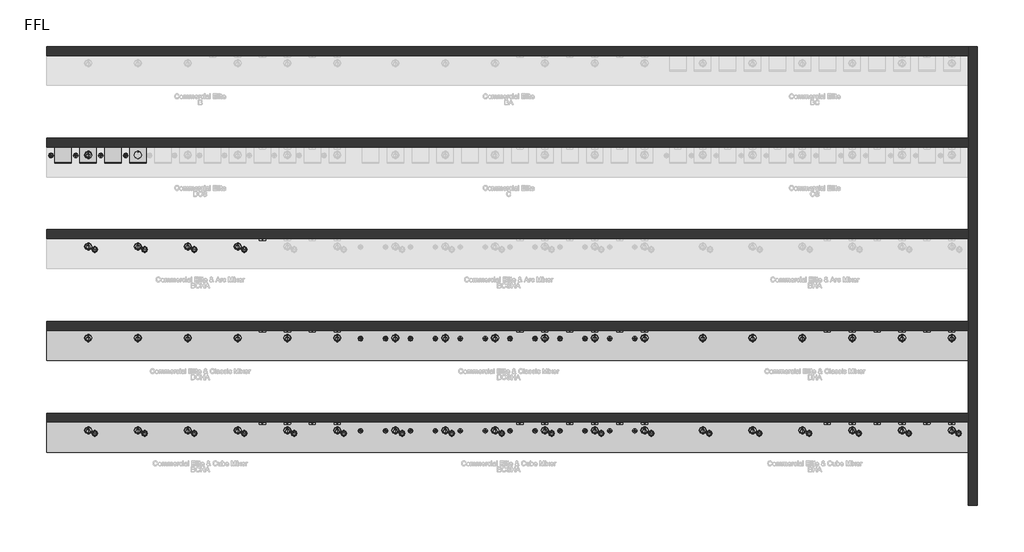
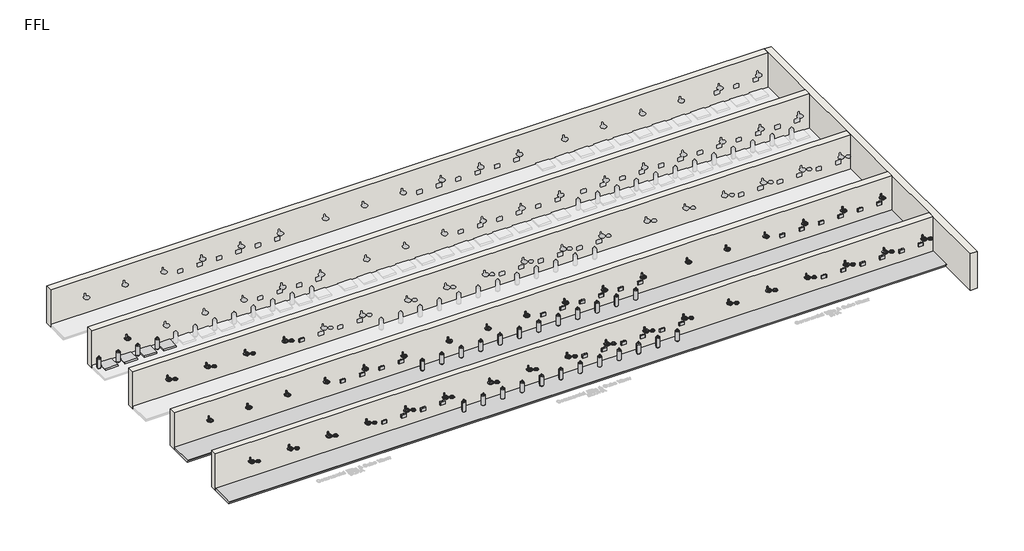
# One storey, part 1 of 13: 128 flow terminals, 6 walls, 2 furniture elements.
"""IFC4 building model written with IfcOpenShell, lengths in millimetres."""

from ifc_helpers import new_model, si_unit, origin, origin_with_axes, place, context, project, spatial, polyline, outline, extrude, faceted_brep, transform, mapped, element, save
from components import flow_terminal_100_people_matte_black_0dc622b1, bcs_and_bc_6de74493, bright_chrome_743c02cf, brushed_chrome_13082571, co2_gas_cylinder_20234e14, generic_plinth_900mm_f1ea148c

model = new_model("IFC4")

# Units and contexts
model_context = context("Model", 3, world=origin())
ifc_project = project(units=[si_unit("LENGTHUNIT", "METRE", prefix="MILLI")], contexts=[model_context])

# Site, building, storey
site = spatial("IfcSite", under=ifc_project)
building = spatial("IfcBuilding", under=site)
storey = spatial("IfcBuildingStorey", under=building, Name="FFL", Elevation=0.0)

# Flow terminals
placement = place(None, origin())
flow_terminal_100_people_matte_black_shape = flow_terminal_100_people_matte_black_0dc622b1(model_context)
element("IfcFlowTerminal", 1, ObjectType="PlumFixt_Zip Commercial_Elite_Classic Mixer_BCSHA : 100 People - Gold", at=placement, inside=storey, context=model_context, shape_type="MappedRepresentation", body=[
    mapped(flow_terminal_100_people_matte_black_shape, transform((7279.2647071, -697.2606696, 0.0), x_axis=(1.0, 0.0, 0.0), y_axis=(0.0, 1.0, 0.0), z_axis=(0.0, 0.0, 1.0))),
])
element("IfcFlowTerminal", 2, ObjectType="PlumFixt_Zip Commercial_Elite_Classic Mixer_BHA : 100 People - Gold", at=placement, inside=storey, context=model_context, shape_type="MappedRepresentation", body=[
    mapped(flow_terminal_100_people_matte_black_shape, transform((16529.2647071, -697.2606696, 0.0), x_axis=(1.0, 0.0, 0.0), y_axis=(0.0, 1.0, 0.0), z_axis=(0.0, 0.0, 1.0))),
])
element("IfcFlowTerminal", 3, ObjectType="PlumFixt_Zip Commercial_Elite_Cube Mixer_BCSHA : 100 People - Gold", at=placement, inside=storey, context=model_context, shape_type="MappedRepresentation", body=[
    mapped(flow_terminal_100_people_matte_black_shape, transform((7279.2647071, -3477.2606696, 0.0), x_axis=(1.0, 0.0, 0.0), y_axis=(0.0, 1.0, 0.0), z_axis=(0.0, 0.0, 1.0))),
])
element("IfcFlowTerminal", 4, ObjectType="PlumFixt_Zip Commercial_Elite_Cube Mixer_BHA : 100 People - Gold", at=placement, inside=storey, context=model_context, shape_type="MappedRepresentation", body=[
    mapped(flow_terminal_100_people_matte_black_shape, transform((16529.2647071, -3477.2606696, 0.0), x_axis=(1.0, 0.0, 0.0), y_axis=(0.0, 1.0, 0.0), z_axis=(0.0, 0.0, 1.0))),
])
element("IfcFlowTerminal", 5, ObjectType="PlumFixt_Zip Commercial_Elite_Classic Mixer_BCSHA : 100 People - Gunmetal", at=placement, inside=storey, context=model_context, shape_type="MappedRepresentation", body=[
    mapped(flow_terminal_100_people_matte_black_shape, transform((8029.2647071, -697.2606696, 0.0), x_axis=(1.0, 0.0, 0.0), y_axis=(0.0, 1.0, 0.0), z_axis=(0.0, 0.0, 1.0))),
])
element("IfcFlowTerminal", 6, ObjectType="PlumFixt_Zip Commercial_Elite_Classic Mixer_BHA : 100 People - Gunmetal", at=placement, inside=storey, context=model_context, shape_type="MappedRepresentation", body=[
    mapped(flow_terminal_100_people_matte_black_shape, transform((17279.2647071, -697.2606696, 0.0), x_axis=(1.0, 0.0, 0.0), y_axis=(0.0, 1.0, 0.0), z_axis=(0.0, 0.0, 1.0))),
])
element("IfcFlowTerminal", 7, ObjectType="PlumFixt_Zip Commercial_Elite_Cube Mixer_BCSHA : 100 People - Gunmetal", at=placement, inside=storey, context=model_context, shape_type="MappedRepresentation", body=[
    mapped(flow_terminal_100_people_matte_black_shape, transform((8029.2647071, -3477.2606696, 0.0), x_axis=(1.0, 0.0, 0.0), y_axis=(0.0, 1.0, 0.0), z_axis=(0.0, 0.0, 1.0))),
])
element("IfcFlowTerminal", 8, ObjectType="PlumFixt_Zip Commercial_Elite_Cube Mixer_BHA : 100 People - Gunmetal", at=placement, inside=storey, context=model_context, shape_type="MappedRepresentation", body=[
    mapped(flow_terminal_100_people_matte_black_shape, transform((17279.2647071, -3477.2606696, 0.0), x_axis=(1.0, 0.0, 0.0), y_axis=(0.0, 1.0, 0.0), z_axis=(0.0, 0.0, 1.0))),
])
element("IfcFlowTerminal", 9, ObjectType="PlumFixt_Zip Commercial_Elite_Arc Mixer_BCHA : 100 People - Matte Black", at=placement, inside=storey, context=model_context, shape_type="MappedRepresentation", body=[
    mapped(flow_terminal_100_people_matte_black_shape, transform((-470.7352929, 2062.7393304, 0.0), x_axis=(1.0, 0.0, 0.0), y_axis=(0.0, 1.0, 0.0), z_axis=(0.0, 0.0, 1.0))),
])
element("IfcFlowTerminal", 10, ObjectType="PlumFixt_Zip Commercial_Elite_Classic Mixer_BCHA : 100 People - Matte Black", at=placement, inside=storey, context=model_context, shape_type="MappedRepresentation", body=[
    mapped(flow_terminal_100_people_matte_black_shape, transform((-470.7352929, -697.2606696, 0.0), x_axis=(1.0, 0.0, 0.0), y_axis=(0.0, 1.0, 0.0), z_axis=(0.0, 0.0, 1.0))),
])
element("IfcFlowTerminal", 11, ObjectType="PlumFixt_Zip Commercial_Elite_Classic Mixer_BCSHA : 100 People - Matte Black", at=placement, inside=storey, context=model_context, shape_type="MappedRepresentation", body=[
    mapped(flow_terminal_100_people_matte_black_shape, transform((8779.2647071, -697.2606696, 0.0), x_axis=(1.0, 0.0, 0.0), y_axis=(0.0, 1.0, 0.0), z_axis=(0.0, 0.0, 1.0))),
])
element("IfcFlowTerminal", 12, ObjectType="PlumFixt_Zip Commercial_Elite_Classic Mixer_BHA : 100 People - Matte Black", at=placement, inside=storey, context=model_context, shape_type="MappedRepresentation", body=[
    mapped(flow_terminal_100_people_matte_black_shape, transform((18029.2647071, -697.2606696, 0.0), x_axis=(1.0, 0.0, 0.0), y_axis=(0.0, 1.0, 0.0), z_axis=(0.0, 0.0, 1.0))),
])
element("IfcFlowTerminal", 13, ObjectType="PlumFixt_Zip Commercial_Elite_Cube Mixer_BCHA : 100 People - Matte Black", at=placement, inside=storey, context=model_context, shape_type="MappedRepresentation", body=[
    mapped(flow_terminal_100_people_matte_black_shape, transform((-470.7352929, -3477.2606696, 0.0), x_axis=(1.0, 0.0, 0.0), y_axis=(0.0, 1.0, 0.0), z_axis=(0.0, 0.0, 1.0))),
])
element("IfcFlowTerminal", 14, ObjectType="PlumFixt_Zip Commercial_Elite_Cube Mixer_BCSHA : 100 People - Matte Black", at=placement, inside=storey, context=model_context, shape_type="MappedRepresentation", body=[
    mapped(flow_terminal_100_people_matte_black_shape, transform((8779.2647071, -3477.2606696, 0.0), x_axis=(1.0, 0.0, 0.0), y_axis=(0.0, 1.0, 0.0), z_axis=(0.0, 0.0, 1.0))),
])
element("IfcFlowTerminal", 15, ObjectType="PlumFixt_Zip Commercial_Elite_Cube Mixer_BHA : 100 People - Matte Black", at=placement, inside=storey, context=model_context, shape_type="MappedRepresentation", body=[
    mapped(flow_terminal_100_people_matte_black_shape, transform((18029.2647071, -3477.2606696, 0.0), x_axis=(1.0, 0.0, 0.0), y_axis=(0.0, 1.0, 0.0), z_axis=(0.0, 0.0, 1.0))),
])
element("IfcFlowTerminal", 16, ObjectType="PlumFixt_Zip Commercial_Elite_Classic Mixer_BCHA : 100 People - Nickel", at=placement, inside=storey, context=model_context, shape_type="MappedRepresentation", body=[
    mapped(flow_terminal_100_people_matte_black_shape, transform((279.2647071, -697.2606696, 0.0), x_axis=(1.0, 0.0, 0.0), y_axis=(0.0, 1.0, 0.0), z_axis=(0.0, 0.0, 1.0))),
])
element("IfcFlowTerminal", 17, ObjectType="PlumFixt_Zip Commercial_Elite_Classic Mixer_BCSHA : 100 People - Nickel", at=placement, inside=storey, context=model_context, shape_type="MappedRepresentation", body=[
    mapped(flow_terminal_100_people_matte_black_shape, transform((9529.2647071, -697.2606696, 0.0), x_axis=(1.0, 0.0, 0.0), y_axis=(0.0, 1.0, 0.0), z_axis=(0.0, 0.0, 1.0))),
])
element("IfcFlowTerminal", 18, ObjectType="PlumFixt_Zip Commercial_Elite_Classic Mixer_BHA : 100 People - Nickel", at=placement, inside=storey, context=model_context, shape_type="MappedRepresentation", body=[
    mapped(flow_terminal_100_people_matte_black_shape, transform((18779.2647071, -697.2606696, 0.0), x_axis=(1.0, 0.0, 0.0), y_axis=(0.0, 1.0, 0.0), z_axis=(0.0, 0.0, 1.0))),
])
element("IfcFlowTerminal", 19, ObjectType="PlumFixt_Zip Commercial_Elite_Cube Mixer_BCHA : 100 People - Nickel", at=placement, inside=storey, context=model_context, shape_type="MappedRepresentation", body=[
    mapped(flow_terminal_100_people_matte_black_shape, transform((279.2647071, -3477.2606696, 0.0), x_axis=(1.0, 0.0, 0.0), y_axis=(0.0, 1.0, 0.0), z_axis=(0.0, 0.0, 1.0))),
])
element("IfcFlowTerminal", 20, ObjectType="PlumFixt_Zip Commercial_Elite_Cube Mixer_BCSHA : 100 People - Nickel", at=placement, inside=storey, context=model_context, shape_type="MappedRepresentation", body=[
    mapped(flow_terminal_100_people_matte_black_shape, transform((9529.2647071, -3477.2606696, 0.0), x_axis=(1.0, 0.0, 0.0), y_axis=(0.0, 1.0, 0.0), z_axis=(0.0, 0.0, 1.0))),
])
element("IfcFlowTerminal", 21, ObjectType="PlumFixt_Zip Commercial_Elite_Cube Mixer_BHA : 100 People - Nickel", at=placement, inside=storey, context=model_context, shape_type="MappedRepresentation", body=[
    mapped(flow_terminal_100_people_matte_black_shape, transform((18779.2647071, -3477.2606696, 0.0), x_axis=(1.0, 0.0, 0.0), y_axis=(0.0, 1.0, 0.0), z_axis=(0.0, 0.0, 1.0))),
])
element("IfcFlowTerminal", 22, ObjectType="PlumFixt_Zip Commercial_Elite_Classic Mixer_BCHA : 100 People - Platinum", at=placement, inside=storey, context=model_context, shape_type="MappedRepresentation", body=[
    mapped(flow_terminal_100_people_matte_black_shape, transform((1029.2647071, -697.2606696, 0.0), x_axis=(1.0, 0.0, 0.0), y_axis=(0.0, 1.0, 0.0), z_axis=(0.0, 0.0, 1.0))),
])
element("IfcFlowTerminal", 23, ObjectType="PlumFixt_Zip Commercial_Elite_Classic Mixer_BCSHA : 100 People - Platinum", at=placement, inside=storey, context=model_context, shape_type="MappedRepresentation", body=[
    mapped(flow_terminal_100_people_matte_black_shape, transform((10279.2647071, -697.2606696, 0.0), x_axis=(1.0, 0.0, 0.0), y_axis=(0.0, 1.0, 0.0), z_axis=(0.0, 0.0, 1.0))),
])
element("IfcFlowTerminal", 24, ObjectType="PlumFixt_Zip Commercial_Elite_Classic Mixer_BHA : 100 People - Platinum", at=placement, inside=storey, context=model_context, shape_type="MappedRepresentation", body=[
    mapped(flow_terminal_100_people_matte_black_shape, transform((19529.2647071, -697.2606696, 0.0), x_axis=(1.0, 0.0, 0.0), y_axis=(0.0, 1.0, 0.0), z_axis=(0.0, 0.0, 1.0))),
])
element("IfcFlowTerminal", 25, ObjectType="PlumFixt_Zip Commercial_Elite_Cube Mixer_BCHA : 100 People - Platinum", at=placement, inside=storey, context=model_context, shape_type="MappedRepresentation", body=[
    mapped(flow_terminal_100_people_matte_black_shape, transform((1029.2647071, -3477.2606696, 0.0), x_axis=(1.0, 0.0, 0.0), y_axis=(0.0, 1.0, 0.0), z_axis=(0.0, 0.0, 1.0))),
])
element("IfcFlowTerminal", 26, ObjectType="PlumFixt_Zip Commercial_Elite_Cube Mixer_BCSHA : 100 People - Platinum", at=placement, inside=storey, context=model_context, shape_type="MappedRepresentation", body=[
    mapped(flow_terminal_100_people_matte_black_shape, transform((10279.2647071, -3477.2606696, 0.0), x_axis=(1.0, 0.0, 0.0), y_axis=(0.0, 1.0, 0.0), z_axis=(0.0, 0.0, 1.0))),
])
element("IfcFlowTerminal", 27, ObjectType="PlumFixt_Zip Commercial_Elite_Cube Mixer_BHA : 100 People - Platinum", at=placement, inside=storey, context=model_context, shape_type="MappedRepresentation", body=[
    mapped(flow_terminal_100_people_matte_black_shape, transform((19529.2647071, -3477.2606696, 0.0), x_axis=(1.0, 0.0, 0.0), y_axis=(0.0, 1.0, 0.0), z_axis=(0.0, 0.0, 1.0))),
])
element("IfcFlowTerminal", 28, ObjectType="PlumFixt_Zip Commercial_Elite_Classic Mixer_BCHA : 100 People - Rose Gold", at=placement, inside=storey, context=model_context, shape_type="MappedRepresentation", body=[
    mapped(flow_terminal_100_people_matte_black_shape, transform((1779.2647071, -697.2606696, 0.0), x_axis=(1.0, 0.0, 0.0), y_axis=(0.0, 1.0, 0.0), z_axis=(0.0, 0.0, 1.0))),
])
element("IfcFlowTerminal", 29, ObjectType="PlumFixt_Zip Commercial_Elite_Classic Mixer_BCSHA : 100 People - Rose Gold", at=placement, inside=storey, context=model_context, shape_type="MappedRepresentation", body=[
    mapped(flow_terminal_100_people_matte_black_shape, transform((11029.2647071, -697.2606696, 0.0), x_axis=(1.0, 0.0, 0.0), y_axis=(0.0, 1.0, 0.0), z_axis=(0.0, 0.0, 1.0))),
])
element("IfcFlowTerminal", 30, ObjectType="PlumFixt_Zip Commercial_Elite_Classic Mixer_BHA : 100 People - Rose Gold", at=placement, inside=storey, context=model_context, shape_type="MappedRepresentation", body=[
    mapped(flow_terminal_100_people_matte_black_shape, transform((20279.2647071, -697.2606696, 0.0), x_axis=(1.0, 0.0, 0.0), y_axis=(0.0, 1.0, 0.0), z_axis=(0.0, 0.0, 1.0))),
])
element("IfcFlowTerminal", 31, ObjectType="PlumFixt_Zip Commercial_Elite_Cube Mixer_BCHA : 100 People - Rose Gold", at=placement, inside=storey, context=model_context, shape_type="MappedRepresentation", body=[
    mapped(flow_terminal_100_people_matte_black_shape, transform((1779.2647071, -3477.2606696, 0.0), x_axis=(1.0, 0.0, 0.0), y_axis=(0.0, 1.0, 0.0), z_axis=(0.0, 0.0, 1.0))),
])
element("IfcFlowTerminal", 32, ObjectType="PlumFixt_Zip Commercial_Elite_Cube Mixer_BCSHA : 100 People - Rose Gold", at=placement, inside=storey, context=model_context, shape_type="MappedRepresentation", body=[
    mapped(flow_terminal_100_people_matte_black_shape, transform((11029.2647071, -3477.2606696, 0.0), x_axis=(1.0, 0.0, 0.0), y_axis=(0.0, 1.0, 0.0), z_axis=(0.0, 0.0, 1.0))),
])
element("IfcFlowTerminal", 33, ObjectType="PlumFixt_Zip Commercial_Elite_Cube Mixer_BHA : 100 People - Rose Gold", at=placement, inside=storey, context=model_context, shape_type="MappedRepresentation", body=[
    mapped(flow_terminal_100_people_matte_black_shape, transform((20279.2647071, -3477.2606696, 0.0), x_axis=(1.0, 0.0, 0.0), y_axis=(0.0, 1.0, 0.0), z_axis=(0.0, 0.0, 1.0))),
])
bcs_and_bc_shape = bcs_and_bc_6de74493(model_context)
element("IfcFlowTerminal", 34, ObjectType="z_PlumFixt_Zip_Vent Tray : BCS and BC", at=placement, inside=storey, context=model_context, shape_type="MappedRepresentation", body=[
    mapped(bcs_and_bc_shape, transform((-6470.7352929, 4945.7393304, 100.0), x_axis=(1.0, 0.0, 0.0), y_axis=(0.0, 1.0, 0.0), z_axis=(0.0, 0.0, 1.0))),
])
element("IfcFlowTerminal", 35, ObjectType="z_PlumFixt_Zip_Vent Tray : BCS and BC", at=placement, inside=storey, context=model_context, shape_type="MappedRepresentation", body=[
    mapped(bcs_and_bc_shape, transform((-5720.7352929, 4945.7393304, 100.0), x_axis=(1.0, 0.0, 0.0), y_axis=(0.0, 1.0, 0.0), z_axis=(0.0, 0.0, 1.0))),
])
element("IfcFlowTerminal", 36, ObjectType="z_PlumFixt_Zip_Vent Tray : BCS and BC", at=placement, inside=storey, context=model_context, shape_type="MappedRepresentation", body=[
    mapped(bcs_and_bc_shape, transform((-4970.7352929, 4945.7393304, 100.0), x_axis=(1.0, 0.0, 0.0), y_axis=(0.0, 1.0, 0.0), z_axis=(0.0, 0.0, 1.0))),
])
element("IfcFlowTerminal", 37, ObjectType="z_PlumFixt_Zip_Vent Tray : BCS and BC", at=placement, inside=storey, context=model_context, shape_type="MappedRepresentation", body=[
    mapped(bcs_and_bc_shape, transform((-4220.7352929, 4945.7393304, 100.0), x_axis=(1.0, 0.0, 0.0), y_axis=(0.0, 1.0, 0.0), z_axis=(0.0, 0.0, 1.0))),
])
bright_chrome_shape = bright_chrome_743c02cf(model_context)
element("IfcFlowTerminal", 38, ObjectType="z_PlumFixt_Zip_Font : Bright Chrome", at=placement, inside=storey, context=model_context, shape_type="MappedRepresentation", body=[
    mapped(bright_chrome_shape, transform((-5520.7352929, 1991.2393304, 900.0), x_axis=(1.0000000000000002, 0.0, 0.0), y_axis=(0.0, 1.0000000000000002, 0.0), z_axis=(0.0, 0.0, 1.0))),
])
element("IfcFlowTerminal", 39, ObjectType="z_PlumFixt_Zip_Font : Bright Chrome", at=placement, inside=storey, context=model_context, shape_type="MappedRepresentation", body=[
    mapped(bright_chrome_shape, transform((-4020.7352929, 1991.2393304, 900.0), x_axis=(1.0000000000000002, 0.0, 0.0), y_axis=(0.0, 1.0000000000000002, 0.0), z_axis=(0.0, 0.0, 1.0))),
])
element("IfcFlowTerminal", 40, ObjectType="z_PlumFixt_Zip_Font : Bright Chrome", at=placement, inside=storey, context=model_context, shape_type="MappedRepresentation", body=[
    mapped(bright_chrome_shape, transform((-2520.7352929, 1991.2393304, 900.0), x_axis=(1.0000000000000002, 0.0, 0.0), y_axis=(0.0, 1.0000000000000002, 0.0), z_axis=(0.0, 0.0, 1.0))),
])
element("IfcFlowTerminal", 41, ObjectType="z_PlumFixt_Zip_Font : Bright Chrome", at=placement, inside=storey, context=model_context, shape_type="MappedRepresentation", body=[
    mapped(bright_chrome_shape, transform((-1020.7352929, 1991.2393304, 900.0), x_axis=(1.0000000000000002, 0.0, 0.0), y_axis=(0.0, 1.0000000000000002, 0.0), z_axis=(0.0, 0.0, 1.0))),
])
brushed_chrome_shape = brushed_chrome_13082571(model_context)
element("IfcFlowTerminal", 42, ObjectType="z_PlumFixt_Zip_Font and Tap Riser : Brushed Chrome", at=placement, inside=storey, context=model_context, shape_type="MappedRepresentation", body=[
    mapped(brushed_chrome_shape, transform((-5720.7352929, 4837.9893304, 900.0), x_axis=(1.0000000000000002, 0.0, 0.0), y_axis=(0.0, 1.0000000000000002, 0.0), z_axis=(0.0, 0.0, 1.0))),
])
element("IfcFlowTerminal", 43, ObjectType="z_PlumFixt_Zip_Font and Tap Riser : Brushed Chrome", at=placement, inside=storey, context=model_context, shape_type="MappedRepresentation", body=[
    mapped(brushed_chrome_shape, transform((-5720.7352929, 2077.9893304, 900.0), x_axis=(1.0000000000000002, 0.0, 0.0), y_axis=(0.0, 1.0000000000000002, 0.0), z_axis=(0.0, 0.0, 1.0))),
])
element("IfcFlowTerminal", 44, ObjectType="z_PlumFixt_Zip_Font and Tap Riser : Brushed Chrome", at=placement, inside=storey, context=model_context, shape_type="MappedRepresentation", body=[
    mapped(brushed_chrome_shape, transform((-5720.7352929, -682.0106696, 900.0), x_axis=(1.0000000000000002, 0.0, 0.0), y_axis=(0.0, 1.0000000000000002, 0.0), z_axis=(0.0, 0.0, 1.0))),
])
element("IfcFlowTerminal", 45, ObjectType="z_PlumFixt_Zip_Font and Tap Riser : Brushed Chrome", at=placement, inside=storey, context=model_context, shape_type="MappedRepresentation", body=[
    mapped(brushed_chrome_shape, transform((3529.2647071, -682.0106696, 900.0), x_axis=(1.0000000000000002, 0.0, 0.0), y_axis=(0.0, 1.0000000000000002, 0.0), z_axis=(0.0, 0.0, 1.0))),
])
element("IfcFlowTerminal", 46, ObjectType="z_PlumFixt_Zip_Font and Tap Riser : Brushed Chrome", at=placement, inside=storey, context=model_context, shape_type="MappedRepresentation", body=[
    mapped(brushed_chrome_shape, transform((12779.2647071, -682.0106696, 900.0), x_axis=(1.0000000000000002, 0.0, 0.0), y_axis=(0.0, 1.0000000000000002, 0.0), z_axis=(0.0, 0.0, 1.0))),
])
element("IfcFlowTerminal", 47, ObjectType="z_PlumFixt_Zip_Font and Tap Riser : Brushed Chrome", at=placement, inside=storey, context=model_context, shape_type="MappedRepresentation", body=[
    mapped(brushed_chrome_shape, transform((-5720.7352929, -3462.0106696, 900.0), x_axis=(1.0000000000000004, 0.0, 0.0), y_axis=(0.0, 1.0000000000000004, 0.0), z_axis=(0.0, 0.0, 1.0))),
])
element("IfcFlowTerminal", 48, ObjectType="z_PlumFixt_Zip_Font and Tap Riser : Brushed Chrome", at=placement, inside=storey, context=model_context, shape_type="MappedRepresentation", body=[
    mapped(brushed_chrome_shape, transform((3529.2647071, -3462.0106696, 900.0), x_axis=(1.0000000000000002, 0.0, 0.0), y_axis=(0.0, 1.0000000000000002, 0.0), z_axis=(0.0, 0.0, 1.0))),
])
element("IfcFlowTerminal", 49, ObjectType="z_PlumFixt_Zip_Font and Tap Riser : Brushed Chrome", at=placement, inside=storey, context=model_context, shape_type="MappedRepresentation", body=[
    mapped(brushed_chrome_shape, transform((12779.2647071, -3462.0106696, 900.0), x_axis=(1.0000000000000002, 0.0, 0.0), y_axis=(0.0, 1.0000000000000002, 0.0), z_axis=(0.0, 0.0, 1.0))),
])
element("IfcFlowTerminal", 50, ObjectType="z_PlumFixt_Zip_Font : Brushed Chrome", at=placement, inside=storey, context=model_context, shape_type="MappedRepresentation", body=[
    mapped(bright_chrome_shape, transform((-5520.7352929, -3548.7606696, 900.0), x_axis=(1.0000000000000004, 0.0, 0.0), y_axis=(0.0, 1.0000000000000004, 0.0), z_axis=(0.0, 0.0, 1.0))),
])
element("IfcFlowTerminal", 51, ObjectType="z_PlumFixt_Zip_Font : Brushed Chrome", at=placement, inside=storey, context=model_context, shape_type="MappedRepresentation", body=[
    mapped(bright_chrome_shape, transform((-4020.7352929, -3548.7606696, 900.0), x_axis=(1.0000000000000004, 0.0, 0.0), y_axis=(0.0, 1.0000000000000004, 0.0), z_axis=(0.0, 0.0, 1.0))),
])
element("IfcFlowTerminal", 52, ObjectType="z_PlumFixt_Zip_Font : Brushed Chrome", at=placement, inside=storey, context=model_context, shape_type="MappedRepresentation", body=[
    mapped(bright_chrome_shape, transform((-2520.7352929, -3548.7606696, 900.0), x_axis=(1.0000000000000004, 0.0, 0.0), y_axis=(0.0, 1.0000000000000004, 0.0), z_axis=(0.0, 0.0, 1.0))),
])
element("IfcFlowTerminal", 53, ObjectType="z_PlumFixt_Zip_Font : Brushed Chrome", at=placement, inside=storey, context=model_context, shape_type="MappedRepresentation", body=[
    mapped(bright_chrome_shape, transform((-1020.7352929, -3548.7606696, 900.0), x_axis=(1.0000000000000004, 0.0, 0.0), y_axis=(0.0, 1.0000000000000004, 0.0), z_axis=(0.0, 0.0, 1.0))),
])
element("IfcFlowTerminal", 54, ObjectType="z_PlumFixt_Zip_Font : Brushed Chrome", at=placement, inside=storey, context=model_context, shape_type="MappedRepresentation", body=[
    mapped(bright_chrome_shape, transform((479.2647071, -3548.7606696, 900.0), x_axis=(1.0000000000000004, 0.0, 0.0), y_axis=(0.0, 1.0000000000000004, 0.0), z_axis=(0.0, 0.0, 1.0))),
])
element("IfcFlowTerminal", 55, ObjectType="z_PlumFixt_Zip_Font : Brushed Chrome", at=placement, inside=storey, context=model_context, shape_type="MappedRepresentation", body=[
    mapped(bright_chrome_shape, transform((1979.2647071, -3548.7606696, 900.0), x_axis=(1.0000000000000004, 0.0, 0.0), y_axis=(0.0, 1.0000000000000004, 0.0), z_axis=(0.0, 0.0, 1.0))),
])
element("IfcFlowTerminal", 56, ObjectType="z_PlumFixt_Zip_Font : Brushed Chrome", at=placement, inside=storey, context=model_context, shape_type="MappedRepresentation", body=[
    mapped(bright_chrome_shape, transform((3729.2647071, -3548.7606696, 900.0), x_axis=(1.0000000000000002, 0.0, 0.0), y_axis=(0.0, 1.0000000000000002, 0.0), z_axis=(0.0, 0.0, 1.0))),
])
element("IfcFlowTerminal", 57, ObjectType="z_PlumFixt_Zip_Font : Brushed Chrome", at=placement, inside=storey, context=model_context, shape_type="MappedRepresentation", body=[
    mapped(bright_chrome_shape, transform((5229.2647071, -3548.7606696, 900.0), x_axis=(1.0000000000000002, 0.0, 0.0), y_axis=(0.0, 1.0000000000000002, 0.0), z_axis=(0.0, 0.0, 1.0))),
])
element("IfcFlowTerminal", 58, ObjectType="z_PlumFixt_Zip_Font : Brushed Chrome", at=placement, inside=storey, context=model_context, shape_type="MappedRepresentation", body=[
    mapped(bright_chrome_shape, transform((6729.2647071, -3548.7606696, 900.0), x_axis=(1.0000000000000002, 0.0, 0.0), y_axis=(0.0, 1.0000000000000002, 0.0), z_axis=(0.0, 0.0, 1.0))),
])
element("IfcFlowTerminal", 59, ObjectType="z_PlumFixt_Zip_Font : Brushed Chrome", at=placement, inside=storey, context=model_context, shape_type="MappedRepresentation", body=[
    mapped(bright_chrome_shape, transform((8229.2647071, -3548.7606696, 900.0), x_axis=(1.0000000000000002, 0.0, 0.0), y_axis=(0.0, 1.0000000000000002, 0.0), z_axis=(0.0, 0.0, 1.0))),
])
element("IfcFlowTerminal", 60, ObjectType="z_PlumFixt_Zip_Font : Brushed Chrome", at=placement, inside=storey, context=model_context, shape_type="MappedRepresentation", body=[
    mapped(bright_chrome_shape, transform((9729.2647071, -3548.7606696, 900.0), x_axis=(1.0000000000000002, 0.0, 0.0), y_axis=(0.0, 1.0000000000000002, 0.0), z_axis=(0.0, 0.0, 1.0))),
])
element("IfcFlowTerminal", 61, ObjectType="z_PlumFixt_Zip_Font : Brushed Chrome", at=placement, inside=storey, context=model_context, shape_type="MappedRepresentation", body=[
    mapped(bright_chrome_shape, transform((11229.2647071, -3548.7606696, 900.0), x_axis=(1.0000000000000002, 0.0, 0.0), y_axis=(0.0, 1.0000000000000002, 0.0), z_axis=(0.0, 0.0, 1.0))),
])
element("IfcFlowTerminal", 62, ObjectType="z_PlumFixt_Zip_Font : Brushed Chrome", at=placement, inside=storey, context=model_context, shape_type="MappedRepresentation", body=[
    mapped(bright_chrome_shape, transform((12979.2647071, -3548.7606696, 900.0), x_axis=(1.0000000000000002, 0.0, 0.0), y_axis=(0.0, 1.0000000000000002, 0.0), z_axis=(0.0, 0.0, 1.0))),
])
element("IfcFlowTerminal", 63, ObjectType="z_PlumFixt_Zip_Font : Brushed Chrome", at=placement, inside=storey, context=model_context, shape_type="MappedRepresentation", body=[
    mapped(bright_chrome_shape, transform((14479.2647071, -3548.7606696, 900.0), x_axis=(1.0000000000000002, 0.0, 0.0), y_axis=(0.0, 1.0000000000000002, 0.0), z_axis=(0.0, 0.0, 1.0))),
])
element("IfcFlowTerminal", 64, ObjectType="z_PlumFixt_Zip_Font : Brushed Chrome", at=placement, inside=storey, context=model_context, shape_type="MappedRepresentation", body=[
    mapped(bright_chrome_shape, transform((15979.2647071, -3548.7606696, 900.0), x_axis=(1.0000000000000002, 0.0, 0.0), y_axis=(0.0, 1.0000000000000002, 0.0), z_axis=(0.0, 0.0, 1.0))),
])
element("IfcFlowTerminal", 65, ObjectType="z_PlumFixt_Zip_Font : Brushed Chrome", at=placement, inside=storey, context=model_context, shape_type="MappedRepresentation", body=[
    mapped(bright_chrome_shape, transform((17479.2647071, -3548.7606696, 900.0), x_axis=(1.0000000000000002, 0.0, 0.0), y_axis=(0.0, 1.0000000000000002, 0.0), z_axis=(0.0, 0.0, 1.0))),
])
element("IfcFlowTerminal", 66, ObjectType="z_PlumFixt_Zip_Font : Brushed Chrome", at=placement, inside=storey, context=model_context, shape_type="MappedRepresentation", body=[
    mapped(bright_chrome_shape, transform((18979.2647071, -3548.7606696, 900.0), x_axis=(1.0000000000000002, 0.0, 0.0), y_axis=(0.0, 1.0000000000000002, 0.0), z_axis=(0.0, 0.0, 1.0))),
])
element("IfcFlowTerminal", 67, ObjectType="z_PlumFixt_Zip_Font : Brushed Chrome", at=placement, inside=storey, context=model_context, shape_type="MappedRepresentation", body=[
    mapped(bright_chrome_shape, transform((20479.2647071, -3548.7606696, 900.0), x_axis=(1.0000000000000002, 0.0, 0.0), y_axis=(0.0, 1.0000000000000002, 0.0), z_axis=(0.0, 0.0, 1.0))),
])
element("IfcFlowTerminal", 68, ObjectType="z_PlumFixt_Zip_Font and Tap Riser : Brushed Nickel", at=placement, inside=storey, context=model_context, shape_type="MappedRepresentation", body=[
    mapped(brushed_chrome_shape, transform((-4220.7352929, 2077.9893304, 900.0), x_axis=(1.0000000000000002, 0.0, 0.0), y_axis=(0.0, 1.0000000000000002, 0.0), z_axis=(0.0, 0.0, 1.0))),
])
element("IfcFlowTerminal", 69, ObjectType="z_PlumFixt_Zip_Font and Tap Riser : Brushed Nickel", at=placement, inside=storey, context=model_context, shape_type="MappedRepresentation", body=[
    mapped(brushed_chrome_shape, transform((-4220.7352929, -682.0106696, 900.0), x_axis=(1.0000000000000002, 0.0, 0.0), y_axis=(0.0, 1.0000000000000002, 0.0), z_axis=(0.0, 0.0, 1.0))),
])
element("IfcFlowTerminal", 70, ObjectType="z_PlumFixt_Zip_Font and Tap Riser : Brushed Nickel", at=placement, inside=storey, context=model_context, shape_type="MappedRepresentation", body=[
    mapped(brushed_chrome_shape, transform((5029.2647071, -682.0106696, 900.0), x_axis=(1.0000000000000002, 0.0, 0.0), y_axis=(0.0, 1.0000000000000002, 0.0), z_axis=(0.0, 0.0, 1.0))),
])
element("IfcFlowTerminal", 71, ObjectType="z_PlumFixt_Zip_Font and Tap Riser : Brushed Nickel", at=placement, inside=storey, context=model_context, shape_type="MappedRepresentation", body=[
    mapped(brushed_chrome_shape, transform((14279.2647071, -682.0106696, 900.0), x_axis=(1.0000000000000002, 0.0, 0.0), y_axis=(0.0, 1.0000000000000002, 0.0), z_axis=(0.0, 0.0, 1.0))),
])
element("IfcFlowTerminal", 72, ObjectType="z_PlumFixt_Zip_Font and Tap Riser : Brushed Nickel", at=placement, inside=storey, context=model_context, shape_type="MappedRepresentation", body=[
    mapped(brushed_chrome_shape, transform((-4220.7352929, -3462.0106696, 900.0), x_axis=(1.0000000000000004, 0.0, 0.0), y_axis=(0.0, 1.0000000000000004, 0.0), z_axis=(0.0, 0.0, 1.0))),
])
element("IfcFlowTerminal", 73, ObjectType="z_PlumFixt_Zip_Font and Tap Riser : Brushed Nickel", at=placement, inside=storey, context=model_context, shape_type="MappedRepresentation", body=[
    mapped(brushed_chrome_shape, transform((5029.2647071, -3462.0106696, 900.0), x_axis=(1.0000000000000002, 0.0, 0.0), y_axis=(0.0, 1.0000000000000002, 0.0), z_axis=(0.0, 0.0, 1.0))),
])
element("IfcFlowTerminal", 74, ObjectType="z_PlumFixt_Zip_Font and Tap Riser : Brushed Nickel", at=placement, inside=storey, context=model_context, shape_type="MappedRepresentation", body=[
    mapped(brushed_chrome_shape, transform((14279.2647071, -3462.0106696, 900.0), x_axis=(1.0000000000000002, 0.0, 0.0), y_axis=(0.0, 1.0000000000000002, 0.0), z_axis=(0.0, 0.0, 1.0))),
])
co2_gas_cylinder_shape = co2_gas_cylinder_20234e14(model_context)
element("IfcFlowTerminal", 75, ObjectType="z_PlumFixt_Zip_CO2 Gas Cylinder : CO2 Gas Cylinder", at=placement, inside=storey, context=model_context, shape_type="MappedRepresentation", body=[
    mapped(co2_gas_cylinder_shape, transform((-6837.7352929, 4750.7393304, 100.0), x_axis=(-1.0, 0.0, 0.0), y_axis=(0.0, -1.0, 0.0), z_axis=(0.0, 0.0, 1.0))),
])
element("IfcFlowTerminal", 76, ObjectType="z_PlumFixt_Zip_CO2 Gas Cylinder : CO2 Gas Cylinder", at=placement, inside=storey, context=model_context, shape_type="MappedRepresentation", body=[
    mapped(co2_gas_cylinder_shape, transform((-6087.7352929, 4750.7393304, 100.0), x_axis=(-1.0, 0.0, 0.0), y_axis=(0.0, -1.0, 0.0), z_axis=(0.0, 0.0, 1.0))),
])
element("IfcFlowTerminal", 77, ObjectType="z_PlumFixt_Zip_CO2 Gas Cylinder : CO2 Gas Cylinder", at=placement, inside=storey, context=model_context, shape_type="MappedRepresentation", body=[
    mapped(co2_gas_cylinder_shape, transform((-5337.7352929, 4750.7393304, 100.0), x_axis=(-1.0, 0.0, 0.0), y_axis=(0.0, -1.0, 0.0), z_axis=(0.0, 0.0, 1.0))),
])
element("IfcFlowTerminal", 78, ObjectType="z_PlumFixt_Zip_CO2 Gas Cylinder : CO2 Gas Cylinder", at=placement, inside=storey, context=model_context, shape_type="MappedRepresentation", body=[
    mapped(co2_gas_cylinder_shape, transform((-4587.7352929, 4750.7393304, 100.0), x_axis=(-1.0, 0.0, 0.0), y_axis=(0.0, -1.0, 0.0), z_axis=(0.0, 0.0, 1.0))),
])
element("IfcFlowTerminal", 79, ObjectType="z_PlumFixt_Zip_CO2 Gas Cylinder : CO2 Gas Cylinder", at=placement, inside=storey, context=model_context, shape_type="MappedRepresentation", body=[
    mapped(co2_gas_cylinder_shape, transform((2484.2647071, -770.7606696, 100.0), x_axis=(-1.0, 0.0, 0.0), y_axis=(0.0, -1.0, 0.0), z_axis=(0.0, 0.0, 1.0))),
])
element("IfcFlowTerminal", 80, ObjectType="z_PlumFixt_Zip_CO2 Gas Cylinder : CO2 Gas Cylinder", at=placement, inside=storey, context=model_context, shape_type="MappedRepresentation", body=[
    mapped(co2_gas_cylinder_shape, transform((3234.2647071, -770.7606696, 100.0), x_axis=(-1.0, 0.0, 0.0), y_axis=(0.0, -1.0, 0.0), z_axis=(0.0, 0.0, 1.0))),
])
element("IfcFlowTerminal", 81, ObjectType="z_PlumFixt_Zip_CO2 Gas Cylinder : CO2 Gas Cylinder", at=placement, inside=storey, context=model_context, shape_type="MappedRepresentation", body=[
    mapped(co2_gas_cylinder_shape, transform((3984.2647071, -770.7606696, 100.0), x_axis=(-1.0, 0.0, 0.0), y_axis=(0.0, -1.0, 0.0), z_axis=(0.0, 0.0, 1.0))),
])
element("IfcFlowTerminal", 82, ObjectType="z_PlumFixt_Zip_CO2 Gas Cylinder : CO2 Gas Cylinder", at=placement, inside=storey, context=model_context, shape_type="MappedRepresentation", body=[
    mapped(co2_gas_cylinder_shape, transform((4734.2647071, -770.7606696, 100.0), x_axis=(-1.0, 0.0, 0.0), y_axis=(0.0, -1.0, 0.0), z_axis=(0.0, 0.0, 1.0))),
])
element("IfcFlowTerminal", 83, ObjectType="z_PlumFixt_Zip_CO2 Gas Cylinder : CO2 Gas Cylinder", at=placement, inside=storey, context=model_context, shape_type="MappedRepresentation", body=[
    mapped(co2_gas_cylinder_shape, transform((5484.2647071, -770.7606696, 100.0), x_axis=(-1.0, 0.0, 0.0), y_axis=(0.0, -1.0, 0.0), z_axis=(0.0, 0.0, 1.0))),
])
element("IfcFlowTerminal", 84, ObjectType="z_PlumFixt_Zip_CO2 Gas Cylinder : CO2 Gas Cylinder", at=placement, inside=storey, context=model_context, shape_type="MappedRepresentation", body=[
    mapped(co2_gas_cylinder_shape, transform((6234.2647071, -770.7606696, 100.0), x_axis=(-1.0, 0.0, 0.0), y_axis=(0.0, -1.0, 0.0), z_axis=(0.0, 0.0, 1.0))),
])
element("IfcFlowTerminal", 85, ObjectType="z_PlumFixt_Zip_CO2 Gas Cylinder : CO2 Gas Cylinder", at=placement, inside=storey, context=model_context, shape_type="MappedRepresentation", body=[
    mapped(co2_gas_cylinder_shape, transform((6984.2647071, -770.7606696, 100.0), x_axis=(-1.0, 0.0, 0.0), y_axis=(0.0, -1.0, 0.0), z_axis=(0.0, 0.0, 1.0))),
])
element("IfcFlowTerminal", 86, ObjectType="z_PlumFixt_Zip_CO2 Gas Cylinder : CO2 Gas Cylinder", at=placement, inside=storey, context=model_context, shape_type="MappedRepresentation", body=[
    mapped(co2_gas_cylinder_shape, transform((7734.2647071, -770.7606696, 100.0), x_axis=(-1.0, 0.0, 0.0), y_axis=(0.0, -1.0, 0.0), z_axis=(0.0, 0.0, 1.0))),
])
element("IfcFlowTerminal", 87, ObjectType="z_PlumFixt_Zip_CO2 Gas Cylinder : CO2 Gas Cylinder", at=placement, inside=storey, context=model_context, shape_type="MappedRepresentation", body=[
    mapped(co2_gas_cylinder_shape, transform((8484.2647071, -770.7606696, 100.0), x_axis=(-1.0, 0.0, 0.0), y_axis=(0.0, -1.0, 0.0), z_axis=(0.0, 0.0, 1.0))),
])
element("IfcFlowTerminal", 88, ObjectType="z_PlumFixt_Zip_CO2 Gas Cylinder : CO2 Gas Cylinder", at=placement, inside=storey, context=model_context, shape_type="MappedRepresentation", body=[
    mapped(co2_gas_cylinder_shape, transform((9234.2647071, -770.7606696, 100.0), x_axis=(-1.0, 0.0, 0.0), y_axis=(0.0, -1.0, 0.0), z_axis=(0.0, 0.0, 1.0))),
])
element("IfcFlowTerminal", 89, ObjectType="z_PlumFixt_Zip_CO2 Gas Cylinder : CO2 Gas Cylinder", at=placement, inside=storey, context=model_context, shape_type="MappedRepresentation", body=[
    mapped(co2_gas_cylinder_shape, transform((9984.2647071, -770.7606696, 100.0), x_axis=(-1.0, 0.0, 0.0), y_axis=(0.0, -1.0, 0.0), z_axis=(0.0, 0.0, 1.0))),
])
element("IfcFlowTerminal", 90, ObjectType="z_PlumFixt_Zip_CO2 Gas Cylinder : CO2 Gas Cylinder", at=placement, inside=storey, context=model_context, shape_type="MappedRepresentation", body=[
    mapped(co2_gas_cylinder_shape, transform((10734.2647071, -770.7606696, 100.0), x_axis=(-1.0, 0.0, 0.0), y_axis=(0.0, -1.0, 0.0), z_axis=(0.0, 0.0, 1.0))),
])
element("IfcFlowTerminal", 91, ObjectType="z_PlumFixt_Zip_CO2 Gas Cylinder : CO2 Gas Cylinder", at=placement, inside=storey, context=model_context, shape_type="MappedRepresentation", body=[
    mapped(co2_gas_cylinder_shape, transform((2484.2647071, -3550.7606696, 100.0), x_axis=(-1.0, 0.0, 0.0), y_axis=(0.0, -1.0, 0.0), z_axis=(0.0, 0.0, 1.0))),
])
element("IfcFlowTerminal", 92, ObjectType="z_PlumFixt_Zip_CO2 Gas Cylinder : CO2 Gas Cylinder", at=placement, inside=storey, context=model_context, shape_type="MappedRepresentation", body=[
    mapped(co2_gas_cylinder_shape, transform((3234.2647071, -3550.7606696, 100.0), x_axis=(-1.0, 0.0, 0.0), y_axis=(0.0, -1.0, 0.0), z_axis=(0.0, 0.0, 1.0))),
])
element("IfcFlowTerminal", 93, ObjectType="z_PlumFixt_Zip_CO2 Gas Cylinder : CO2 Gas Cylinder", at=placement, inside=storey, context=model_context, shape_type="MappedRepresentation", body=[
    mapped(co2_gas_cylinder_shape, transform((3984.2647071, -3550.7606696, 100.0), x_axis=(-1.0, 0.0, 0.0), y_axis=(0.0, -1.0, 0.0), z_axis=(0.0, 0.0, 1.0))),
])
element("IfcFlowTerminal", 94, ObjectType="z_PlumFixt_Zip_CO2 Gas Cylinder : CO2 Gas Cylinder", at=placement, inside=storey, context=model_context, shape_type="MappedRepresentation", body=[
    mapped(co2_gas_cylinder_shape, transform((4734.2647071, -3550.7606696, 100.0), x_axis=(-1.0, 0.0, 0.0), y_axis=(0.0, -1.0, 0.0), z_axis=(0.0, 0.0, 1.0))),
])
element("IfcFlowTerminal", 95, ObjectType="z_PlumFixt_Zip_CO2 Gas Cylinder : CO2 Gas Cylinder", at=placement, inside=storey, context=model_context, shape_type="MappedRepresentation", body=[
    mapped(co2_gas_cylinder_shape, transform((5484.2647071, -3550.7606696, 100.0), x_axis=(-1.0, 0.0, 0.0), y_axis=(0.0, -1.0, 0.0), z_axis=(0.0, 0.0, 1.0))),
])
element("IfcFlowTerminal", 96, ObjectType="z_PlumFixt_Zip_CO2 Gas Cylinder : CO2 Gas Cylinder", at=placement, inside=storey, context=model_context, shape_type="MappedRepresentation", body=[
    mapped(co2_gas_cylinder_shape, transform((6234.2647071, -3550.7606696, 100.0), x_axis=(-1.0, 0.0, 0.0), y_axis=(0.0, -1.0, 0.0), z_axis=(0.0, 0.0, 1.0))),
])
element("IfcFlowTerminal", 97, ObjectType="z_PlumFixt_Zip_CO2 Gas Cylinder : CO2 Gas Cylinder", at=placement, inside=storey, context=model_context, shape_type="MappedRepresentation", body=[
    mapped(co2_gas_cylinder_shape, transform((6984.2647071, -3550.7606696, 100.0), x_axis=(-1.0, 0.0, 0.0), y_axis=(0.0, -1.0, 0.0), z_axis=(0.0, 0.0, 1.0))),
])
element("IfcFlowTerminal", 98, ObjectType="z_PlumFixt_Zip_CO2 Gas Cylinder : CO2 Gas Cylinder", at=placement, inside=storey, context=model_context, shape_type="MappedRepresentation", body=[
    mapped(co2_gas_cylinder_shape, transform((7734.2647071, -3550.7606696, 100.0), x_axis=(-1.0, 0.0, 0.0), y_axis=(0.0, -1.0, 0.0), z_axis=(0.0, 0.0, 1.0))),
])
element("IfcFlowTerminal", 99, ObjectType="z_PlumFixt_Zip_CO2 Gas Cylinder : CO2 Gas Cylinder", at=placement, inside=storey, context=model_context, shape_type="MappedRepresentation", body=[
    mapped(co2_gas_cylinder_shape, transform((8484.2647071, -3550.7606696, 100.0), x_axis=(-1.0, 0.0, 0.0), y_axis=(0.0, -1.0, 0.0), z_axis=(0.0, 0.0, 1.0))),
])
element("IfcFlowTerminal", 100, ObjectType="z_PlumFixt_Zip_CO2 Gas Cylinder : CO2 Gas Cylinder", at=placement, inside=storey, context=model_context, shape_type="MappedRepresentation", body=[
    mapped(co2_gas_cylinder_shape, transform((9234.2647071, -3550.7606696, 100.0), x_axis=(-1.0, 0.0, 0.0), y_axis=(0.0, -1.0, 0.0), z_axis=(0.0, 0.0, 1.0))),
])
element("IfcFlowTerminal", 101, ObjectType="z_PlumFixt_Zip_CO2 Gas Cylinder : CO2 Gas Cylinder", at=placement, inside=storey, context=model_context, shape_type="MappedRepresentation", body=[
    mapped(co2_gas_cylinder_shape, transform((9984.2647071, -3550.7606696, 100.0), x_axis=(-1.0, 0.0, 0.0), y_axis=(0.0, -1.0, 0.0), z_axis=(0.0, 0.0, 1.0))),
])
element("IfcFlowTerminal", 102, ObjectType="z_PlumFixt_Zip_CO2 Gas Cylinder : CO2 Gas Cylinder", at=placement, inside=storey, context=model_context, shape_type="MappedRepresentation", body=[
    mapped(co2_gas_cylinder_shape, transform((10734.2647071, -3550.7606696, 100.0), x_axis=(-1.0, 0.0, 0.0), y_axis=(0.0, -1.0, 0.0), z_axis=(0.0, 0.0, 1.0))),
])
element("IfcFlowTerminal", 103, ObjectType="z_PlumFixt_Zip_Font and Tap Riser : Gloss Black", at=placement, inside=storey, context=model_context, shape_type="MappedRepresentation", body=[
    mapped(brushed_chrome_shape, transform((-2720.7352929, 2077.9893304, 900.0), x_axis=(1.0000000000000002, 0.0, 0.0), y_axis=(0.0, 1.0000000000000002, 0.0), z_axis=(0.0, 0.0, 1.0))),
])
element("IfcFlowTerminal", 104, ObjectType="z_PlumFixt_Zip_Font and Tap Riser : Gloss Black", at=placement, inside=storey, context=model_context, shape_type="MappedRepresentation", body=[
    mapped(brushed_chrome_shape, transform((-2720.7352929, -682.0106696, 900.0), x_axis=(1.0000000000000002, 0.0, 0.0), y_axis=(0.0, 1.0000000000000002, 0.0), z_axis=(0.0, 0.0, 1.0))),
])
element("IfcFlowTerminal", 105, ObjectType="z_PlumFixt_Zip_Font and Tap Riser : Gloss Black", at=placement, inside=storey, context=model_context, shape_type="MappedRepresentation", body=[
    mapped(brushed_chrome_shape, transform((6529.2647071, -682.0106696, 900.0), x_axis=(1.0000000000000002, 0.0, 0.0), y_axis=(0.0, 1.0000000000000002, 0.0), z_axis=(0.0, 0.0, 1.0))),
])
element("IfcFlowTerminal", 106, ObjectType="z_PlumFixt_Zip_Font and Tap Riser : Gloss Black", at=placement, inside=storey, context=model_context, shape_type="MappedRepresentation", body=[
    mapped(brushed_chrome_shape, transform((15779.2647071, -682.0106696, 900.0), x_axis=(1.0000000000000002, 0.0, 0.0), y_axis=(0.0, 1.0000000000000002, 0.0), z_axis=(0.0, 0.0, 1.0))),
])
element("IfcFlowTerminal", 107, ObjectType="z_PlumFixt_Zip_Font and Tap Riser : Gloss Black", at=placement, inside=storey, context=model_context, shape_type="MappedRepresentation", body=[
    mapped(brushed_chrome_shape, transform((-2720.7352929, -3462.0106696, 900.0), x_axis=(1.0000000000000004, 0.0, 0.0), y_axis=(0.0, 1.0000000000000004, 0.0), z_axis=(0.0, 0.0, 1.0))),
])
element("IfcFlowTerminal", 108, ObjectType="z_PlumFixt_Zip_Font and Tap Riser : Gloss Black", at=placement, inside=storey, context=model_context, shape_type="MappedRepresentation", body=[
    mapped(brushed_chrome_shape, transform((6529.2647071, -3462.0106696, 900.0), x_axis=(1.0000000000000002, 0.0, 0.0), y_axis=(0.0, 1.0000000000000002, 0.0), z_axis=(0.0, 0.0, 1.0))),
])
element("IfcFlowTerminal", 109, ObjectType="z_PlumFixt_Zip_Font and Tap Riser : Gloss Black", at=placement, inside=storey, context=model_context, shape_type="MappedRepresentation", body=[
    mapped(brushed_chrome_shape, transform((15779.2647071, -3462.0106696, 900.0), x_axis=(1.0000000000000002, 0.0, 0.0), y_axis=(0.0, 1.0000000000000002, 0.0), z_axis=(0.0, 0.0, 1.0))),
])
element("IfcFlowTerminal", 110, ObjectType="z_PlumFixt_Zip_Font and Tap Riser : Gunmetal", at=placement, inside=storey, context=model_context, shape_type="MappedRepresentation", body=[
    mapped(brushed_chrome_shape, transform((-1220.7352929, 2077.9893304, 900.0), x_axis=(1.0000000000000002, 0.0, 0.0), y_axis=(0.0, 1.0000000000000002, 0.0), z_axis=(0.0, 0.0, 1.0))),
])
element("IfcFlowTerminal", 111, ObjectType="z_PlumFixt_Zip_Font and Tap Riser : Gunmetal", at=placement, inside=storey, context=model_context, shape_type="MappedRepresentation", body=[
    mapped(brushed_chrome_shape, transform((-1220.7352929, -682.0106696, 900.0), x_axis=(1.0000000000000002, 0.0, 0.0), y_axis=(0.0, 1.0000000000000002, 0.0), z_axis=(0.0, 0.0, 1.0))),
])
element("IfcFlowTerminal", 112, ObjectType="z_PlumFixt_Zip_Font and Tap Riser : Gunmetal", at=placement, inside=storey, context=model_context, shape_type="MappedRepresentation", body=[
    mapped(brushed_chrome_shape, transform((8029.2647071, -682.0106696, 900.0), x_axis=(1.0000000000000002, 0.0, 0.0), y_axis=(0.0, 1.0000000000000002, 0.0), z_axis=(0.0, 0.0, 1.0))),
])
element("IfcFlowTerminal", 113, ObjectType="z_PlumFixt_Zip_Font and Tap Riser : Gunmetal", at=placement, inside=storey, context=model_context, shape_type="MappedRepresentation", body=[
    mapped(brushed_chrome_shape, transform((17279.2647071, -682.0106696, 900.0), x_axis=(1.0000000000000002, 0.0, 0.0), y_axis=(0.0, 1.0000000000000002, 0.0), z_axis=(0.0, 0.0, 1.0))),
])
element("IfcFlowTerminal", 114, ObjectType="z_PlumFixt_Zip_Font and Tap Riser : Gunmetal", at=placement, inside=storey, context=model_context, shape_type="MappedRepresentation", body=[
    mapped(brushed_chrome_shape, transform((-1220.7352929, -3462.0106696, 900.0), x_axis=(1.0000000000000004, 0.0, 0.0), y_axis=(0.0, 1.0000000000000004, 0.0), z_axis=(0.0, 0.0, 1.0))),
])
element("IfcFlowTerminal", 115, ObjectType="z_PlumFixt_Zip_Font and Tap Riser : Gunmetal", at=placement, inside=storey, context=model_context, shape_type="MappedRepresentation", body=[
    mapped(brushed_chrome_shape, transform((8029.2647071, -3462.0106696, 900.0), x_axis=(1.0000000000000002, 0.0, 0.0), y_axis=(0.0, 1.0000000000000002, 0.0), z_axis=(0.0, 0.0, 1.0))),
])
element("IfcFlowTerminal", 116, ObjectType="z_PlumFixt_Zip_Font and Tap Riser : Gunmetal", at=placement, inside=storey, context=model_context, shape_type="MappedRepresentation", body=[
    mapped(brushed_chrome_shape, transform((17279.2647071, -3462.0106696, 900.0), x_axis=(1.0000000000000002, 0.0, 0.0), y_axis=(0.0, 1.0000000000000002, 0.0), z_axis=(0.0, 0.0, 1.0))),
])
element("IfcFlowTerminal", 117, ObjectType="z_PlumFixt_Zip_Font and Tap Riser : Nickel", at=placement, inside=storey, context=model_context, shape_type="MappedRepresentation", body=[
    mapped(brushed_chrome_shape, transform((279.2647071, -682.0106696, 900.0), x_axis=(1.0000000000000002, 0.0, 0.0), y_axis=(0.0, 1.0000000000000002, 0.0), z_axis=(0.0, 0.0, 1.0))),
])
element("IfcFlowTerminal", 118, ObjectType="z_PlumFixt_Zip_Font and Tap Riser : Nickel", at=placement, inside=storey, context=model_context, shape_type="MappedRepresentation", body=[
    mapped(brushed_chrome_shape, transform((9529.2647071, -682.0106696, 900.0), x_axis=(1.0000000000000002, 0.0, 0.0), y_axis=(0.0, 1.0000000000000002, 0.0), z_axis=(0.0, 0.0, 1.0))),
])
element("IfcFlowTerminal", 119, ObjectType="z_PlumFixt_Zip_Font and Tap Riser : Nickel", at=placement, inside=storey, context=model_context, shape_type="MappedRepresentation", body=[
    mapped(brushed_chrome_shape, transform((18779.2647071, -682.0106696, 900.0), x_axis=(1.0000000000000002, 0.0, 0.0), y_axis=(0.0, 1.0000000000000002, 0.0), z_axis=(0.0, 0.0, 1.0))),
])
element("IfcFlowTerminal", 120, ObjectType="z_PlumFixt_Zip_Font and Tap Riser : Nickel", at=placement, inside=storey, context=model_context, shape_type="MappedRepresentation", body=[
    mapped(brushed_chrome_shape, transform((279.2647071, -3462.0106696, 900.0), x_axis=(1.0000000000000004, 0.0, 0.0), y_axis=(0.0, 1.0000000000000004, 0.0), z_axis=(0.0, 0.0, 1.0))),
])
element("IfcFlowTerminal", 121, ObjectType="z_PlumFixt_Zip_Font and Tap Riser : Nickel", at=placement, inside=storey, context=model_context, shape_type="MappedRepresentation", body=[
    mapped(brushed_chrome_shape, transform((9529.2647071, -3462.0106696, 900.0), x_axis=(1.0000000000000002, 0.0, 0.0), y_axis=(0.0, 1.0000000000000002, 0.0), z_axis=(0.0, 0.0, 1.0))),
])
element("IfcFlowTerminal", 122, ObjectType="z_PlumFixt_Zip_Font and Tap Riser : Nickel", at=placement, inside=storey, context=model_context, shape_type="MappedRepresentation", body=[
    mapped(brushed_chrome_shape, transform((18779.2647071, -3462.0106696, 900.0), x_axis=(1.0000000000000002, 0.0, 0.0), y_axis=(0.0, 1.0000000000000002, 0.0), z_axis=(0.0, 0.0, 1.0))),
])
element("IfcFlowTerminal", 123, ObjectType="z_PlumFixt_Zip_Font and Tap Riser : Rose Gold", at=placement, inside=storey, context=model_context, shape_type="MappedRepresentation", body=[
    mapped(brushed_chrome_shape, transform((1779.2647071, -682.0106696, 900.0), x_axis=(1.0000000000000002, 0.0, 0.0), y_axis=(0.0, 1.0000000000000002, 0.0), z_axis=(0.0, 0.0, 1.0))),
])
element("IfcFlowTerminal", 124, ObjectType="z_PlumFixt_Zip_Font and Tap Riser : Rose Gold", at=placement, inside=storey, context=model_context, shape_type="MappedRepresentation", body=[
    mapped(brushed_chrome_shape, transform((11029.2647071, -682.0106696, 900.0), x_axis=(1.0000000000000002, 0.0, 0.0), y_axis=(0.0, 1.0000000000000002, 0.0), z_axis=(0.0, 0.0, 1.0))),
])
element("IfcFlowTerminal", 125, ObjectType="z_PlumFixt_Zip_Font and Tap Riser : Rose Gold", at=placement, inside=storey, context=model_context, shape_type="MappedRepresentation", body=[
    mapped(brushed_chrome_shape, transform((20279.2647071, -682.0106696, 900.0), x_axis=(1.0000000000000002, 0.0, 0.0), y_axis=(0.0, 1.0000000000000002, 0.0), z_axis=(0.0, 0.0, 1.0))),
])
element("IfcFlowTerminal", 126, ObjectType="z_PlumFixt_Zip_Font and Tap Riser : Rose Gold", at=placement, inside=storey, context=model_context, shape_type="MappedRepresentation", body=[
    mapped(brushed_chrome_shape, transform((1779.2647071, -3462.0106696, 900.0), x_axis=(1.0000000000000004, 0.0, 0.0), y_axis=(0.0, 1.0000000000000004, 0.0), z_axis=(0.0, 0.0, 1.0))),
])
element("IfcFlowTerminal", 127, ObjectType="z_PlumFixt_Zip_Font and Tap Riser : Rose Gold", at=placement, inside=storey, context=model_context, shape_type="MappedRepresentation", body=[
    mapped(brushed_chrome_shape, transform((11029.2647071, -3462.0106696, 900.0), x_axis=(1.0000000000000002, 0.0, 0.0), y_axis=(0.0, 1.0000000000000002, 0.0), z_axis=(0.0, 0.0, 1.0))),
])
element("IfcFlowTerminal", 128, ObjectType="z_PlumFixt_Zip_Font and Tap Riser : Rose Gold", at=placement, inside=storey, context=model_context, shape_type="MappedRepresentation", body=[
    mapped(brushed_chrome_shape, transform((20279.2647071, -3462.0106696, 900.0), x_axis=(1.0000000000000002, 0.0, 0.0), y_axis=(0.0, 1.0000000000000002, 0.0), z_axis=(0.0, 0.0, 1.0))),
])

# Furniture
generic_plinth_900mm_shape = generic_plinth_900mm_f1ea148c(model_context)
element("IfcFurniture", 129, ObjectType="Generic Plinth : 900mm", at=placement, inside=storey, context=model_context, shape_type="MappedRepresentation", body=[
    mapped(generic_plinth_900mm_shape, transform((6886.5270022, -431.7606696, 0.0), x_axis=(1.0, 0.0, 0.0), y_axis=(0.0, 1.0, 0.0), z_axis=(0.0, 0.0, 1.0))),
])
element("IfcFurniture", 130, ObjectType="Generic Plinth : 900mm", at=placement, inside=storey, context=model_context, shape_type="MappedRepresentation", body=[
    mapped(generic_plinth_900mm_shape, transform((6886.5270022, -3211.7606696, 0.0), x_axis=(1.0, 0.0, 0.0), y_axis=(0.0, 1.0, 0.0), z_axis=(0.0, 0.0, 1.0))),
])

# Walls
element("IfcWall", 131, ObjectType="Brick veneer - 250 timber", at=placement, inside=storey, context=model_context, shape_type="SweptSolid", body=[
    extrude(outline(polyline([(-6969.7352929, -2941.7606696), (20780.2647071, -2941.7606696), (20780.2647071, -3191.7606696), (-6969.7352929, -3191.7606696), (-6969.7352929, -2941.7606696)])), origin_with_axes(), (0.0, 0.0, 1.0), 1500.0),
])
element("IfcWall", 132, ObjectType="Double brick - 270", at=placement, inside=storey, context=model_context, shape_type="Brep", body=[
    faceted_brep([(21050.2647071, -5701.7606696, 0.0), (21050.2647071, 8118.2393304, 0.0), (21050.2647071, 8118.2393304, 1500.0), (21050.2647071, -5701.7606696, 1500.0), (20780.2647071, -5701.7606696, 0.0), (20780.2647071, -5701.7606696, 1500.0), (20780.2647071, -3191.7606696, 1500.0), (20780.2647071, -2941.7606696, 1500.0), (20780.2647071, -431.7606696, 1500.0), (20780.2647071, -161.7606696, 1500.0), (20780.2647071, 2328.2393304, 1500.0), (20780.2647071, 2598.2393304, 1500.0), (20780.2647071, 5088.2393304, 1500.0), (20780.2647071, 5358.2393304, 1500.0), (20780.2647071, 7848.2393304, 1500.0), (20780.2647071, 8118.2393304, 1500.0), (20780.2647071, 8118.2393304, 0.0), (20780.2647071, 7848.2393304, 0.0), (20780.2647071, 5358.2393304, 0.0), (20780.2647071, 5088.2393304, 0.0), (20780.2647071, 2598.2393304, 0.0), (20780.2647071, 2328.2393304, 0.0), (20780.2647071, -161.7606696, 0.0), (20780.2647071, -431.7606696, 0.0), (20780.2647071, -2941.7606696, 0.0), (20780.2647071, -3191.7606696, 0.0)], [[[0, 1, 2, 3]], [[4, 5, 6, 7, 8, 9, 10, 11, 12, 13, 14, 15, 16, 17, 18, 19, 20, 21, 22, 23, 24, 25]], [[1, 0, 4, 25, 24, 23, 22, 21, 20, 19, 18, 17, 16]], [[3, 2, 15, 14, 13, 12, 11, 10, 9, 8, 7, 6, 5]], [[0, 3, 5, 4]], [[2, 1, 16, 15]]]),
])
element("IfcWall", 133, ObjectType="Double brick - 270", at=placement, inside=storey, context=model_context, shape_type="SweptSolid", body=[
    extrude(outline(polyline([(20780.2647071, 7848.2393304), (-6969.7352929, 7848.2393304), (-6969.7352929, 8118.2393304), (20780.2647071, 8118.2393304), (20780.2647071, 7848.2393304)])), origin_with_axes(), (0.0, 0.0, 1.0), 1500.0),
])
element("IfcWall", 134, ObjectType="Double brick - 270", at=placement, inside=storey, context=model_context, shape_type="SweptSolid", body=[
    extrude(outline(polyline([(20780.2647071, 5088.2393304), (-6969.7352929, 5088.2393304), (-6969.7352929, 5358.2393304), (20780.2647071, 5358.2393304), (20780.2647071, 5088.2393304)])), origin_with_axes(), (0.0, 0.0, 1.0), 1500.0),
])
element("IfcWall", 135, ObjectType="Double brick - 270", at=placement, inside=storey, context=model_context, shape_type="SweptSolid", body=[
    extrude(outline(polyline([(20780.2647071, 2328.2393304), (-6969.7352929, 2328.2393304), (-6969.7352929, 2598.2393304), (20780.2647071, 2598.2393304), (20780.2647071, 2328.2393304)])), origin_with_axes(), (0.0, 0.0, 1.0), 1500.0),
])
element("IfcWall", 136, ObjectType="Double brick - 270", at=placement, inside=storey, context=model_context, shape_type="SweptSolid", body=[
    extrude(outline(polyline([(20780.2647071, -431.7606696), (-6969.7352929, -431.7606696), (-6969.7352929, -161.7606696), (20780.2647071, -161.7606696), (20780.2647071, -431.7606696)])), origin_with_axes(), (0.0, 0.0, 1.0), 1500.0),
])

save(model, "model.ifc")
